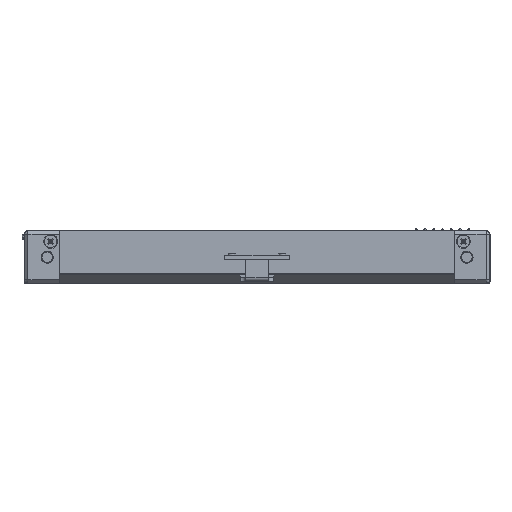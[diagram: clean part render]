
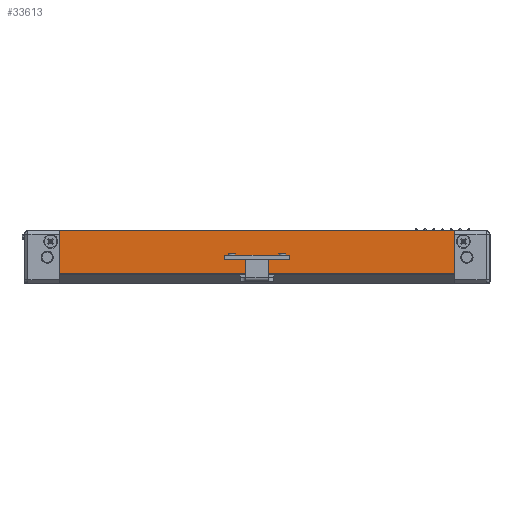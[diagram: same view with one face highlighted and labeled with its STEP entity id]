
A CAD part, top view. The second image highlights one B-rep face of the part: STEP entity #33613.
In plain terms, the highlighted planar face has unit normal (0, 0, 1).
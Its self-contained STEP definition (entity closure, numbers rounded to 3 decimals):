
#20330 = PLANE('',#20331);
#20331 = AXIS2_PLACEMENT_3D('',#20332,#20333,#20334);
#20332 = CARTESIAN_POINT('',(-66.,7.5,-3.5));
#20333 = DIRECTION('',(0.,1.,0.));
#20334 = DIRECTION('',(0.,0.,1.));
#23694 = CYLINDRICAL_SURFACE('',#23695,0.3);
#23695 = AXIS2_PLACEMENT_3D('',#23696,#23697,#23698);
#23696 = CARTESIAN_POINT('',(-66.,-4.7,-3.5));
#23697 = DIRECTION('',(1.,0.,0.));
#23698 = DIRECTION('',(0.,0.,1.));
#24743 = PLANE('',#24744);
#24744 = AXIS2_PLACEMENT_3D('',#24745,#24746,#24747);
#24745 = CARTESIAN_POINT('',(-56.5,-7.5,-11.2));
#24746 = DIRECTION('',(1.,0.,0.));
#24747 = DIRECTION('',(0.,0.,1.));
#24944 = PLANE('',#24945);
#24945 = AXIS2_PLACEMENT_3D('',#24946,#24947,#24948);
#24946 = CARTESIAN_POINT('',(56.5,-7.5,-11.2));
#24947 = DIRECTION('',(-1.,-0.,-0.));
#24948 = DIRECTION('',(0.,0.,-1.));
#27245 = VERTEX_POINT('',#27246);
#27246 = CARTESIAN_POINT('',(-56.5,7.5,-3.2));
#27266 = EDGE_CURVE('',#27245,#27267,#27269,.T.);
#27267 = VERTEX_POINT('',#27268);
#27268 = CARTESIAN_POINT('',(56.5,7.5,-3.2));
#27269 = SURFACE_CURVE('',#27270,(#27274,#27281),.PCURVE_S1.);
#27270 = LINE('',#27271,#27272);
#27271 = CARTESIAN_POINT('',(-66.,7.5,-3.2));
#27272 = VECTOR('',#27273,1.);
#27273 = DIRECTION('',(1.,0.,0.));
#27274 = PCURVE('',#20330,#27275);
#27275 = DEFINITIONAL_REPRESENTATION('',(#27276),#27280);
#27276 = LINE('',#27277,#27278);
#27277 = CARTESIAN_POINT('',(0.3,0.));
#27278 = VECTOR('',#27279,1.);
#27279 = DIRECTION('',(0.,1.));
#27280 = ( GEOMETRIC_REPRESENTATION_CONTEXT(2) 
PARAMETRIC_REPRESENTATION_CONTEXT() REPRESENTATION_CONTEXT('2D SPACE',''
  ) );
#27281 = PCURVE('',#27282,#27287);
#27282 = PLANE('',#27283);
#27283 = AXIS2_PLACEMENT_3D('',#27284,#27285,#27286);
#27284 = CARTESIAN_POINT('',(-66.,-4.7,-3.2));
#27285 = DIRECTION('',(0.,0.,1.));
#27286 = DIRECTION('',(1.,0.,0.));
#27287 = DEFINITIONAL_REPRESENTATION('',(#27288),#27292);
#27288 = LINE('',#27289,#27290);
#27289 = CARTESIAN_POINT('',(0.,12.2));
#27290 = VECTOR('',#27291,1.);
#27291 = DIRECTION('',(1.,0.));
#27292 = ( GEOMETRIC_REPRESENTATION_CONTEXT(2) 
PARAMETRIC_REPRESENTATION_CONTEXT() REPRESENTATION_CONTEXT('2D SPACE',''
  ) );
#30266 = VERTEX_POINT('',#30267);
#30267 = CARTESIAN_POINT('',(56.5,-4.7,-3.2));
#30287 = EDGE_CURVE('',#30288,#30266,#30290,.T.);
#30288 = VERTEX_POINT('',#30289);
#30289 = CARTESIAN_POINT('',(-56.5,-4.7,-3.2));
#30290 = SURFACE_CURVE('',#30291,(#30295,#30301),.PCURVE_S1.);
#30291 = LINE('',#30292,#30293);
#30292 = CARTESIAN_POINT('',(-66.,-4.7,-3.2));
#30293 = VECTOR('',#30294,1.);
#30294 = DIRECTION('',(1.,0.,0.));
#30295 = PCURVE('',#23694,#30296);
#30296 = DEFINITIONAL_REPRESENTATION('',(#30297),#30300);
#30297 = B_SPLINE_CURVE_WITH_KNOTS('',1,(#30298,#30299),.UNSPECIFIED.,
  .F.,.F.,(2,2),(0.,132.),.PIECEWISE_BEZIER_KNOTS.);
#30298 = CARTESIAN_POINT('',(0.,0.));
#30299 = CARTESIAN_POINT('',(0.,132.));
#30300 = ( GEOMETRIC_REPRESENTATION_CONTEXT(2) 
PARAMETRIC_REPRESENTATION_CONTEXT() REPRESENTATION_CONTEXT('2D SPACE',''
  ) );
#30301 = PCURVE('',#27282,#30302);
#30302 = DEFINITIONAL_REPRESENTATION('',(#30303),#30307);
#30303 = LINE('',#30304,#30305);
#30304 = CARTESIAN_POINT('',(0.,0.));
#30305 = VECTOR('',#30306,1.);
#30306 = DIRECTION('',(1.,0.));
#30307 = ( GEOMETRIC_REPRESENTATION_CONTEXT(2) 
PARAMETRIC_REPRESENTATION_CONTEXT() REPRESENTATION_CONTEXT('2D SPACE',''
  ) );
#31555 = EDGE_CURVE('',#27245,#30288,#31556,.T.);
#31556 = SURFACE_CURVE('',#31557,(#31561,#31568),.PCURVE_S1.);
#31557 = LINE('',#31558,#31559);
#31558 = CARTESIAN_POINT('',(-56.5,10.,-3.2));
#31559 = VECTOR('',#31560,1.);
#31560 = DIRECTION('',(0.,-1.,0.));
#31561 = PCURVE('',#24743,#31562);
#31562 = DEFINITIONAL_REPRESENTATION('',(#31563),#31567);
#31563 = LINE('',#31564,#31565);
#31564 = CARTESIAN_POINT('',(8.,-17.5));
#31565 = VECTOR('',#31566,1.);
#31566 = DIRECTION('',(0.,1.));
#31567 = ( GEOMETRIC_REPRESENTATION_CONTEXT(2) 
PARAMETRIC_REPRESENTATION_CONTEXT() REPRESENTATION_CONTEXT('2D SPACE',''
  ) );
#31568 = PCURVE('',#27282,#31569);
#31569 = DEFINITIONAL_REPRESENTATION('',(#31570),#31574);
#31570 = LINE('',#31571,#31572);
#31571 = CARTESIAN_POINT('',(9.5,14.7));
#31572 = VECTOR('',#31573,1.);
#31573 = DIRECTION('',(0.,-1.));
#31574 = ( GEOMETRIC_REPRESENTATION_CONTEXT(2) 
PARAMETRIC_REPRESENTATION_CONTEXT() REPRESENTATION_CONTEXT('2D SPACE',''
  ) );
#31831 = EDGE_CURVE('',#27267,#30266,#31832,.T.);
#31832 = SURFACE_CURVE('',#31833,(#31837,#31844),.PCURVE_S1.);
#31833 = LINE('',#31834,#31835);
#31834 = CARTESIAN_POINT('',(56.5,10.,-3.2));
#31835 = VECTOR('',#31836,1.);
#31836 = DIRECTION('',(0.,-1.,-0.));
#31837 = PCURVE('',#24944,#31838);
#31838 = DEFINITIONAL_REPRESENTATION('',(#31839),#31843);
#31839 = LINE('',#31840,#31841);
#31840 = CARTESIAN_POINT('',(-8.,-17.5));
#31841 = VECTOR('',#31842,1.);
#31842 = DIRECTION('',(0.,1.));
#31843 = ( GEOMETRIC_REPRESENTATION_CONTEXT(2) 
PARAMETRIC_REPRESENTATION_CONTEXT() REPRESENTATION_CONTEXT('2D SPACE',''
  ) );
#31844 = PCURVE('',#27282,#31845);
#31845 = DEFINITIONAL_REPRESENTATION('',(#31846),#31850);
#31846 = LINE('',#31847,#31848);
#31847 = CARTESIAN_POINT('',(122.5,14.7));
#31848 = VECTOR('',#31849,1.);
#31849 = DIRECTION('',(0.,-1.));
#31850 = ( GEOMETRIC_REPRESENTATION_CONTEXT(2) 
PARAMETRIC_REPRESENTATION_CONTEXT() REPRESENTATION_CONTEXT('2D SPACE',''
  ) );
#33613 = ADVANCED_FACE('',(#33614),#27282,.T.);
#33614 = FACE_BOUND('',#33615,.T.);
#33615 = EDGE_LOOP('',(#33616,#33617,#33618,#33619));
#33616 = ORIENTED_EDGE('',*,*,#27266,.F.);
#33617 = ORIENTED_EDGE('',*,*,#31555,.T.);
#33618 = ORIENTED_EDGE('',*,*,#30287,.T.);
#33619 = ORIENTED_EDGE('',*,*,#31831,.F.);
